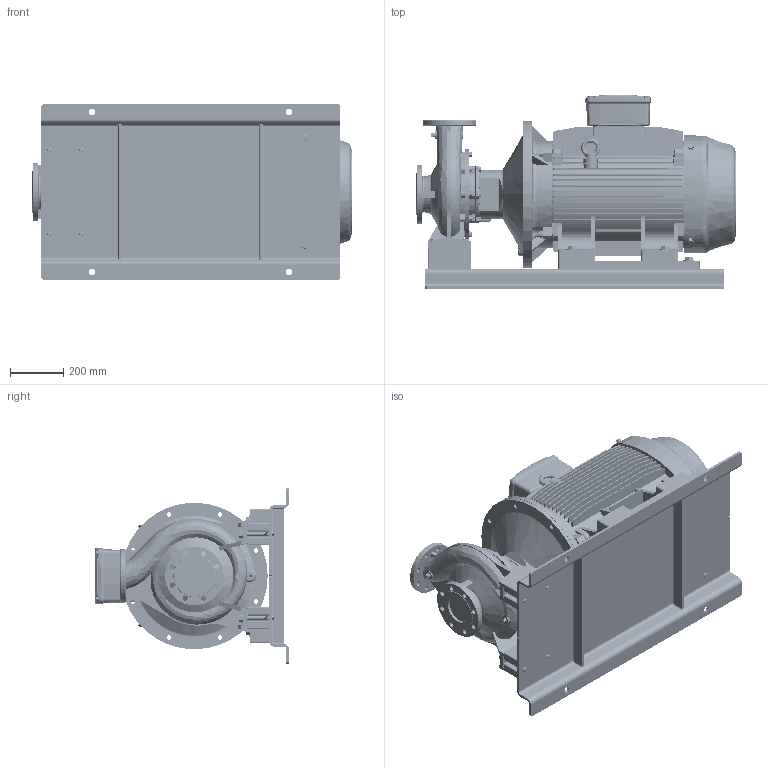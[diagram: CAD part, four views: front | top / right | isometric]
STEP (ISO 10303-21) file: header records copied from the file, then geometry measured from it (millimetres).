
FILE_DESCRIPTION (( 'STEP AP214' ), '1' );
FILE_NAME ('GSD2 80-250_55 & 75_(250SM)_W21_BP.STEP', '2024-08-02T05:37:55', ( '' ), ( '' ), 'SwSTEP 2.0', 'SolidWorks 2019', '' );
FILE_SCHEMA (( 'AUTOMOTIVE_DESIGN' ));
Length unit declared in the file: millimetre
Products named in the file (20): Parametric bolt and washer_SFT-A387B; CGS11-5321_2_3_4_5_CGS11-5324; Parametric Flat Washer_M16; 100x30 - CGSDA-5291; Parametric bolt and washer_SFT-A417B; A407B Bolt_407; GSD2  80-250_55 & 75_(250SM)_W21_BP; 80-250-250S_M_______; Parametric Flat Washer_M20; CGS11-5321_2_3_4_5_CGS11-5322; 250S_M2P IE3_W21T_B35; N8S3 GSDA-837 F1-1832961-00; Parametric bolt_SFT-A387B; Parametric bolt_SFT-A417B
Assembly tree (39 placements, depth 3):
  GSD2  80-250_55 & 75_(250SM)_W21_BP
    80-250-250S_M_______
    250S_M2P IE3_W21T_B35
    N8S3 GSDA-837 F1-1832961-00
    CGS11-5321_2_3_4_5_CGS11-5324  x2
    CGS11-5321_2_3_4_5_CGS11-5322  x4
    100x30 - CGSDA-5291  x2
    Parametric bolt and washer_SFT-A387B
      Parametric bolt_SFT-A387B
      Parametric Flat Washer_M16
    Parametric bolt and washer_SFT-A387B
      Parametric bolt_SFT-A387B
      Parametric Flat Washer_M16
    Parametric bolt and washer_SFT-A387B
      Parametric bolt_SFT-A387B
      Parametric Flat Washer_M16
    Parametric bolt and washer_SFT-A387B
      Parametric bolt_SFT-A387B
      Parametric Flat Washer_M16
    A407B Bolt_407  x2
    Parametric Flat Washer_M20  x2
    Parametric bolt and washer_SFT-A417B
      Parametric bolt_SFT-A417B
      Parametric Flat Washer_M20
    Parametric bolt and washer_SFT-A417B
      Parametric bolt_SFT-A417B
      Parametric Flat Washer_M20
    Parametric bolt and washer_SFT-A417B
      Parametric bolt_SFT-A417B
      Parametric Flat Washer_M20
    Parametric bolt and washer_SFT-A417B
      Parametric bolt_SFT-A417B
      Parametric Flat Washer_M20
Bounding box: 1200.5 x 728 x 660 mm (x, y, z)
Volume: 152955061 mm3; surface area: 7532826.4 mm2
Topology: 39 solids, 44 shells, 4424 faces, 11701 edges, 7479 vertices
Faces by surface type: plane 1777, cylinder 1547, cone 474, torus 327, bspline 283, sphere 16
Entity records: 171311 total; most frequent: CARTESIAN_POINT 79986, ORIENTED_EDGE 19938, DIRECTION 18099, EDGE_CURVE 9969, AXIS2_PLACEMENT_3D 6645, VERTEX_POINT 6352, LINE 4809, VECTOR 4809
